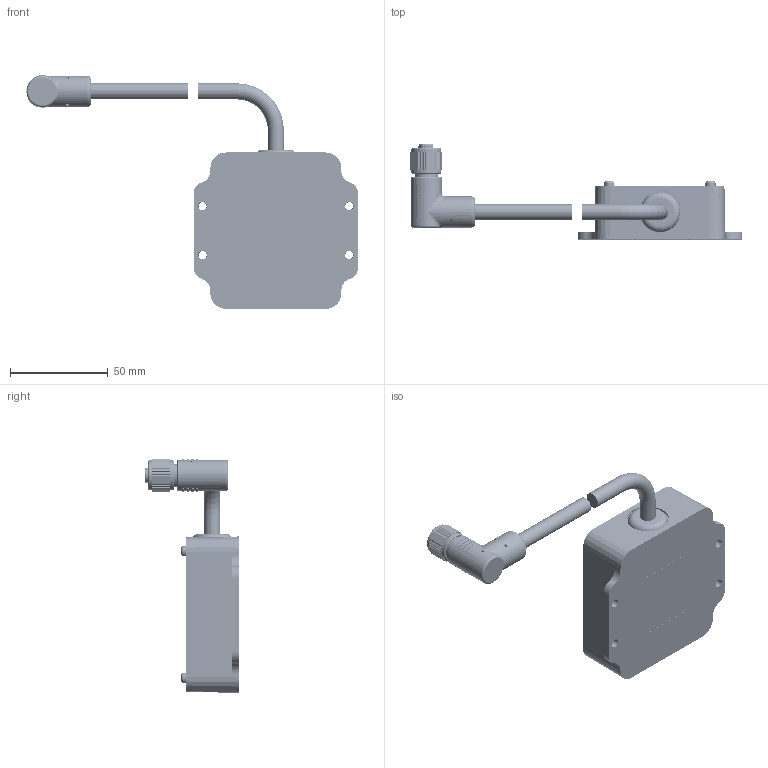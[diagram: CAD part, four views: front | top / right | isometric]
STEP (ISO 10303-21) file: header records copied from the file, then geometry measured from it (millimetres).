
FILE_DESCRIPTION (( 'STEP AP214' ), '1' );
FILE_NAME ('700-105649-02-InterfaceBoxWiredT3ExteriorSpec_90DegreeConnector.STEP', '2023-03-09T21:32:40', ( '' ), ( '' ), 'SwSTEP 2.0', 'SolidWorks 2022', '' );
FILE_SCHEMA (( 'AUTOMOTIVE_DESIGN' ));
Length unit declared in the file: millimetre
Products named in the file (11): ibox_label; ibox_pcb_assembly_For Production; ibox_base_Production; ibox_grommet; ibox_cable_pigtail_SUS_T3_5M pigtail_90bs_180deg; ibox_cable_ties; ibox_lid; 830-104249-3_1202; 700-105649-02-InterfaceBoxWiredT3ExteriorSpec_90DegreeConnector; 96817A904_THREAD-FORMING SCREW FOR THIN PLASTIC_96817A904; ibox_layout
Assembly tree (17 placements, depth 3):
  700-105649-02-InterfaceBoxWiredT3ExteriorSpec_90DegreeConnector
    ibox_base_Production
    ibox_label
    ibox_lid
    ibox_pcb_assembly_For Production
      830-104249-3_1202
    96817A904_THREAD-FORMING SCREW FOR THIN PLASTIC_96817A904  x8
    ibox_grommet
    ibox_cable_pigtail_SUS_T3_5M pigtail_90bs_180deg
    ibox_cable_ties  x2
  ibox_layout
Bounding box: 169.8 x 48.47 x 119.55 mm (x, y, z)
Volume: 91458.1 mm3; surface area: 79235.7 mm2
Topology: 169 solids, 169 shells, 8198 faces, 21082 edges, 13402 vertices
Faces by surface type: plane 5044, cylinder 1877, bspline 653, cone 351, torus 203, sphere 70
Entity records: 360531 total; most frequent: CARTESIAN_POINT 104823, ORIENTED_EDGE 39704, DIRECTION 34967, EDGE_CURVE 19852, VECTOR 13405, LINE 13405, VERTEX_POINT 12621, AXIS2_PLACEMENT_3D 10781
